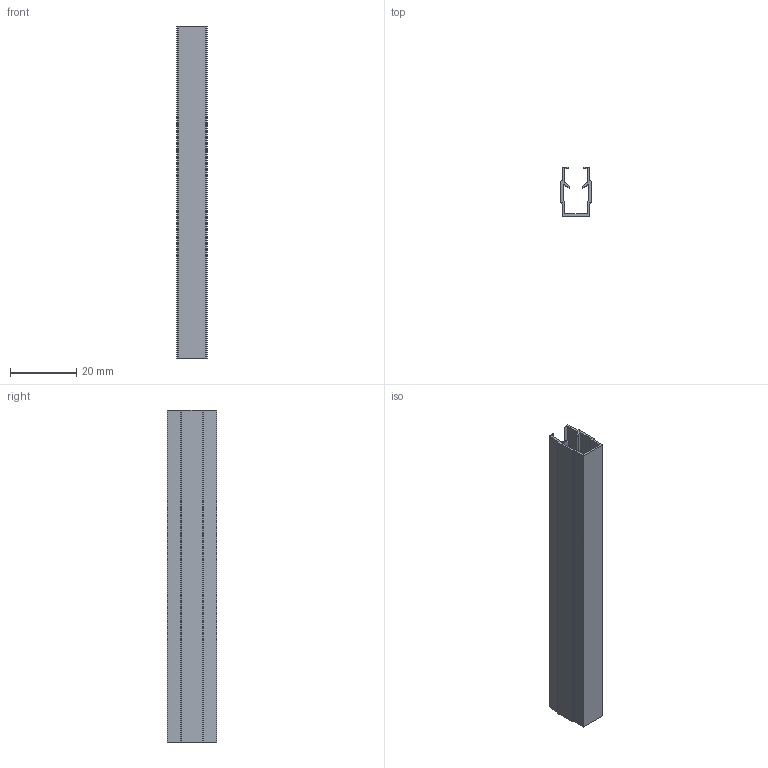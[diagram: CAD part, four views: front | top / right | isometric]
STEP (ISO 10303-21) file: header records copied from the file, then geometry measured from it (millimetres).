
FILE_DESCRIPTION (( 'STEP AP214' ), '1' );
FILE_NAME ('SF05001.step', '2024-12-03T16:29:46', ( '' ), ( '' ), 'SwSTEP 2.0', 'SolidWorks 2023', '' );
FILE_SCHEMA (( 'AUTOMOTIVE_DESIGN' ));
Length unit declared in the file: millimetre
Products named in the file (1): SF05001
Bounding box: 9.2 x 14.8 x 100 mm (x, y, z)
Volume: 2955.5 mm3; surface area: 8858.5 mm2
Topology: 1 solids, 1 shells, 42 faces, 120 edges, 80 vertices
Faces by surface type: plane 32, cylinder 10
Entity records: 1387 total; most frequent: CARTESIAN_POINT 243, ORIENTED_EDGE 240, DIRECTION 226, EDGE_CURVE 120, LINE 100, VECTOR 100, VERTEX_POINT 80, AXIS2_PLACEMENT_3D 63
